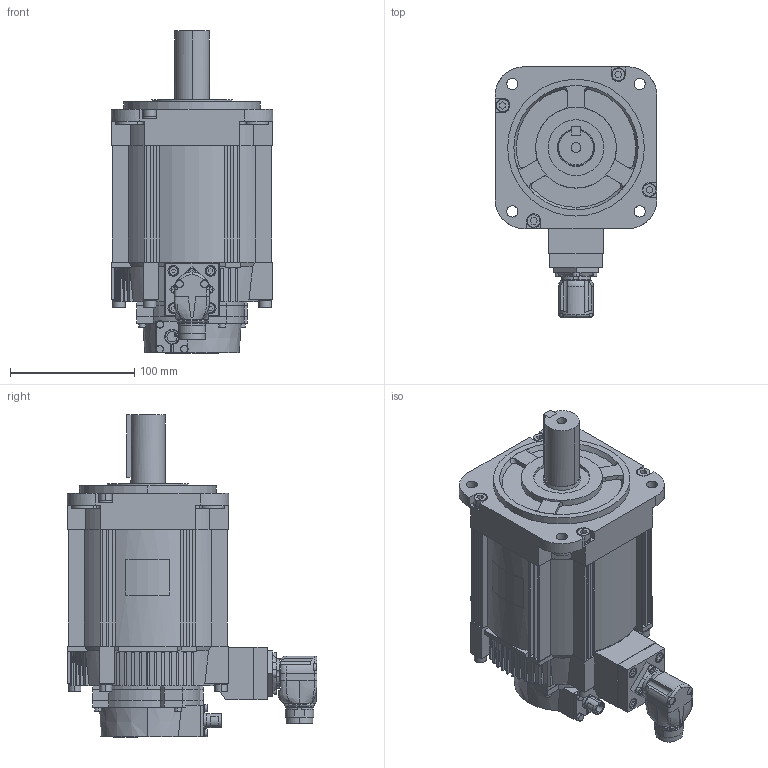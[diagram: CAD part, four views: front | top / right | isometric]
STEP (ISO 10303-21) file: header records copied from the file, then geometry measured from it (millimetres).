
FILE_DESCRIPTION (( 'STEP AP203' ), '1' );
FILE_NAME ('sgm7a_30d_f6f.STEP', '2016-03-01T07:00:00', ( '匠エンジニアリング山之内' ), ( 'TAKUMI-Engniaring' ), 'SwSTEP 2.0', 'SolidWorks 2006303', '' );
FILE_SCHEMA (( 'CONFIG_CONTROL_DESIGN' ));
Length unit declared in the file: millimetre
Products named in the file (4): sgm7a_30d_f6f; sgm7a_30d_f6f_base; sgm7a_30d_f6f_key; sgm7a_30d_f6f_connector
Assembly tree (3 placements, depth 2):
  sgm7a_30d_f6f
    sgm7a_30d_f6f_connector
    sgm7a_30d_f6f_base
    sgm7a_30d_f6f_key
Bounding box: 130 x 201 x 259.1 mm (x, y, z)
Volume: 2516161.1 mm3; surface area: 181099.5 mm2
Topology: 3 solids, 3 shells, 980 faces, 2572 edges, 1682 vertices
Faces by surface type: plane 649, cylinder 278, bspline 24, cone 20, torus 9
Entity records: 32178 total; most frequent: CARTESIAN_POINT 7362, ORIENTED_EDGE 5140, DIRECTION 5048, EDGE_CURVE 2570, AXIS2_PLACEMENT_3D 1724, VERTEX_POINT 1682, LINE 1600, VECTOR 1600
